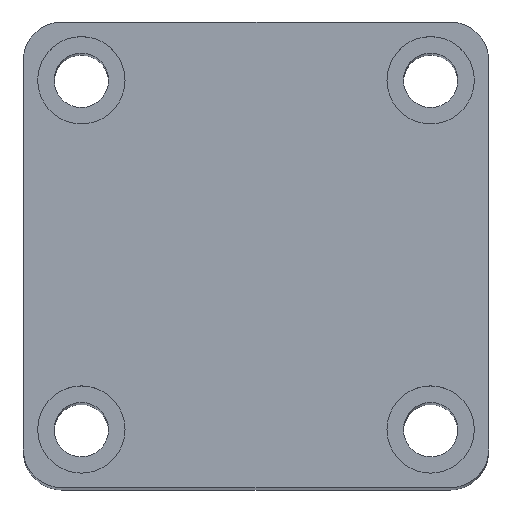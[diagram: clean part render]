
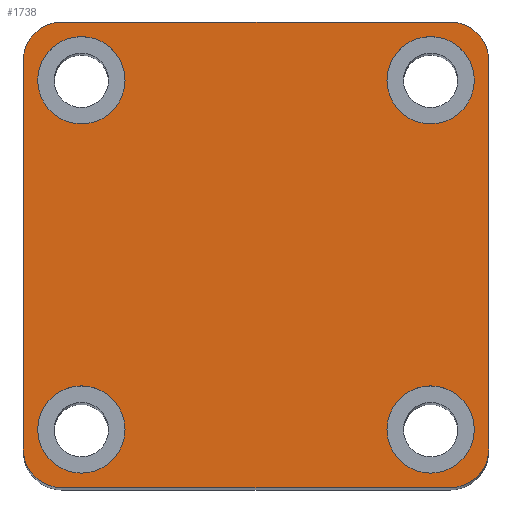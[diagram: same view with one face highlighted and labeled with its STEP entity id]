
A CAD part, top view. The second image highlights one B-rep face of the part: STEP entity #1738.
In plain terms, the highlighted planar face has unit normal (0, 0, 1).
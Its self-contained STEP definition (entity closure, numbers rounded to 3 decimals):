
#1 = VERTEX_POINT ( 'NONE', #1356 ) ;
#90 = VERTEX_POINT ( 'NONE', #1347 ) ;
#119 = FACE_BOUND ( 'NONE', #1888, .T. ) ;
#121 = FACE_BOUND ( 'NONE', #1912, .T. ) ;
#124 = FACE_BOUND ( 'NONE', #1858, .T. ) ;
#125 = FACE_OUTER_BOUND ( 'NONE', #1884, .T. ) ;
#131 = FACE_BOUND ( 'NONE', #1886, .T. ) ;
#328 = EDGE_CURVE ( 'NONE', #808, #787, #934, .T. ) ;
#334 = EDGE_CURVE ( 'NONE', #798, #727, #925, .T. ) ;
#350 = EDGE_CURVE ( 'NONE', #759, #650, #902, .T. ) ;
#354 = EDGE_CURVE ( 'NONE', #90, #805, #899, .T. ) ;
#361 = EDGE_CURVE ( 'NONE', #654, #757, #888, .T. ) ;
#374 = EDGE_CURVE ( 'NONE', #650, #759, #870, .T. ) ;
#376 = EDGE_CURVE ( 'NONE', #1, #689, #868, .T. ) ;
#378 = EDGE_CURVE ( 'NONE', #805, #90, #864, .T. ) ;
#383 = EDGE_CURVE ( 'NONE', #767, #815, #860, .T. ) ;
#384 = EDGE_CURVE ( 'NONE', #787, #798, #856, .T. ) ;
#387 = EDGE_CURVE ( 'NONE', #689, #1, #852, .T. ) ;
#391 = EDGE_CURVE ( 'NONE', #727, #770, #846, .T. ) ;
#393 = EDGE_CURVE ( 'NONE', #697, #767, #843, .T. ) ;
#394 = EDGE_CURVE ( 'NONE', #815, #808, #842, .T. ) ;
#436 = EDGE_CURVE ( 'NONE', #770, #697, #723, .T. ) ;
#439 = EDGE_CURVE ( 'NONE', #757, #654, #731, .T. ) ;
#472 = ORIENTED_EDGE ( 'NONE', *, *, #393, .T. ) ;
#477 = ORIENTED_EDGE ( 'NONE', *, *, #383, .T. ) ;
#481 = ORIENTED_EDGE ( 'NONE', *, *, #350, .F. ) ;
#486 = ORIENTED_EDGE ( 'NONE', *, *, #361, .F. ) ;
#492 = ORIENTED_EDGE ( 'NONE', *, *, #374, .F. ) ;
#494 = ORIENTED_EDGE ( 'NONE', *, *, #394, .T. ) ;
#498 = ORIENTED_EDGE ( 'NONE', *, *, #439, .F. ) ;
#501 = ORIENTED_EDGE ( 'NONE', *, *, #378, .F. ) ;
#502 = ORIENTED_EDGE ( 'NONE', *, *, #354, .F. ) ;
#503 = ORIENTED_EDGE ( 'NONE', *, *, #387, .F. ) ;
#504 = ORIENTED_EDGE ( 'NONE', *, *, #376, .F. ) ;
#505 = ORIENTED_EDGE ( 'NONE', *, *, #328, .T. ) ;
#506 = ORIENTED_EDGE ( 'NONE', *, *, #384, .T. ) ;
#507 = ORIENTED_EDGE ( 'NONE', *, *, #334, .T. ) ;
#526 = ORIENTED_EDGE ( 'NONE', *, *, #391, .T. ) ;
#532 = ORIENTED_EDGE ( 'NONE', *, *, #436, .T. ) ;
#650 = VERTEX_POINT ( 'NONE', #2355 ) ;
#654 = VERTEX_POINT ( 'NONE', #2324 ) ;
#689 = VERTEX_POINT ( 'NONE', #2334 ) ;
#697 = VERTEX_POINT ( 'NONE', #2305 ) ;
#719 = VECTOR ( 'NONE', #2540, 1000. ) ;
#723 = LINE ( 'NONE', #2523, #719 ) ;
#727 = VERTEX_POINT ( 'NONE', #2284 ) ;
#731 = CIRCLE ( 'NONE', #1424, 4.5 ) ;
#757 = VERTEX_POINT ( 'NONE', #2250 ) ;
#759 = VERTEX_POINT ( 'NONE', #2240 ) ;
#767 = VERTEX_POINT ( 'NONE', #2182 ) ;
#770 = VERTEX_POINT ( 'NONE', #2217 ) ;
#787 = VERTEX_POINT ( 'NONE', #2189 ) ;
#798 = VERTEX_POINT ( 'NONE', #2168 ) ;
#805 = VERTEX_POINT ( 'NONE', #2152 ) ;
#808 = VERTEX_POINT ( 'NONE', #2144 ) ;
#815 = VERTEX_POINT ( 'NONE', #2129 ) ;
#842 = CIRCLE ( 'NONE', #1566, 4. ) ;
#843 = CIRCLE ( 'NONE', #1575, 4. ) ;
#846 = CIRCLE ( 'NONE', #1558, 4. ) ;
#852 = CIRCLE ( 'NONE', #1555, 4.5 ) ;
#855 = VECTOR ( 'NONE', #1185, 1000. ) ;
#856 = CIRCLE ( 'NONE', #1538, 4. ) ;
#860 = LINE ( 'NONE', #1199, #855 ) ;
#864 = CIRCLE ( 'NONE', #1534, 4.5 ) ;
#868 = CIRCLE ( 'NONE', #1608, 4.5 ) ;
#870 = CIRCLE ( 'NONE', #1605, 4.5 ) ;
#888 = CIRCLE ( 'NONE', #1622, 4.5 ) ;
#899 = CIRCLE ( 'NONE', #1625, 4.5 ) ;
#902 = CIRCLE ( 'NONE', #1628, 4.5 ) ;
#925 = LINE ( 'NONE', #1374, #932 ) ;
#931 = VECTOR ( 'NONE', #1107, 1000. ) ;
#932 = VECTOR ( 'NONE', #1373, 1000. ) ;
#934 = LINE ( 'NONE', #1112, #931 ) ;
#1107 = DIRECTION ( 'NONE',  ( -1., 0., 0. ) ) ;
#1112 = CARTESIAN_POINT ( 'NONE',  ( -24., 24., 135. ) ) ;
#1145 = DIRECTION ( 'NONE',  ( 1., 0., 0. ) ) ;
#1146 = DIRECTION ( 'NONE',  ( 0., 0., 1. ) ) ;
#1147 = CARTESIAN_POINT ( 'NONE',  ( 20., 20., 135. ) ) ;
#1148 = DIRECTION ( 'NONE',  ( 1., 0., 0. ) ) ;
#1149 = DIRECTION ( 'NONE',  ( 0., 0., 1. ) ) ;
#1150 = CARTESIAN_POINT ( 'NONE',  ( 20., -20., 135. ) ) ;
#1156 = DIRECTION ( 'NONE',  ( 1., 0., 0. ) ) ;
#1157 = DIRECTION ( 'NONE',  ( 0., 0., 1. ) ) ;
#1158 = CARTESIAN_POINT ( 'NONE',  ( -20., -20., 135. ) ) ;
#1167 = DIRECTION ( 'NONE',  ( 1., 0., 0. ) ) ;
#1169 = DIRECTION ( 'NONE',  ( 0., 0., 1. ) ) ;
#1170 = CARTESIAN_POINT ( 'NONE',  ( 18., -18., 135. ) ) ;
#1179 = DIRECTION ( 'NONE',  ( 1., 0., 0. ) ) ;
#1180 = DIRECTION ( 'NONE',  ( 0., 0., 1. ) ) ;
#1181 = CARTESIAN_POINT ( 'NONE',  ( -20., 20., 135. ) ) ;
#1185 = DIRECTION ( 'NONE',  ( 0., 1., 0. ) ) ;
#1196 = DIRECTION ( 'NONE',  ( 1., 0., 0. ) ) ;
#1197 = DIRECTION ( 'NONE',  ( 0., 0., 1. ) ) ;
#1198 = CARTESIAN_POINT ( 'NONE',  ( -18., -18., 135. ) ) ;
#1199 = CARTESIAN_POINT ( 'NONE',  ( 24., 24., 135. ) ) ;
#1206 = DIRECTION ( 'NONE',  ( 1., 0., 0. ) ) ;
#1207 = DIRECTION ( 'NONE',  ( 0., 0., 1. ) ) ;
#1208 = CARTESIAN_POINT ( 'NONE',  ( 18., -18., 135. ) ) ;
#1210 = DIRECTION ( 'NONE',  ( 1., 0., 0. ) ) ;
#1211 = DIRECTION ( 'NONE',  ( 0., 0., 1. ) ) ;
#1212 = CARTESIAN_POINT ( 'NONE',  ( 18., 18., 135. ) ) ;
#1252 = DIRECTION ( 'NONE',  ( 1., 0., 0. ) ) ;
#1253 = DIRECTION ( 'NONE',  ( 0., 0., 1. ) ) ;
#1255 = CARTESIAN_POINT ( 'NONE',  ( -18., 18., 135. ) ) ;
#1275 = DIRECTION ( 'NONE',  ( 1., 0., 0. ) ) ;
#1276 = DIRECTION ( 'NONE',  ( 0., 0., 1. ) ) ;
#1277 = CARTESIAN_POINT ( 'NONE',  ( -18., -18., 135. ) ) ;
#1294 = DIRECTION ( 'NONE',  ( 1., 0., 0. ) ) ;
#1295 = DIRECTION ( 'NONE',  ( 0., 0., 1. ) ) ;
#1296 = CARTESIAN_POINT ( 'NONE',  ( 18., 18., 135. ) ) ;
#1347 = CARTESIAN_POINT ( 'NONE',  ( -22.5, -18., 135. ) ) ;
#1356 = CARTESIAN_POINT ( 'NONE',  ( 13.5, -18., 135. ) ) ;
#1373 = DIRECTION ( 'NONE',  ( 0., -1., 0. ) ) ;
#1374 = CARTESIAN_POINT ( 'NONE',  ( -24., 24., 135. ) ) ;
#1424 = AXIS2_PLACEMENT_3D ( 'NONE', #2454, #2460, #2447 ) ;
#1509 = AXIS2_PLACEMENT_3D ( 'NONE', #2209, #2219, #2206 ) ;
#1534 = AXIS2_PLACEMENT_3D ( 'NONE', #1198, #1197, #1196 ) ;
#1538 = AXIS2_PLACEMENT_3D ( 'NONE', #1181, #1180, #1179 ) ;
#1555 = AXIS2_PLACEMENT_3D ( 'NONE', #1170, #1169, #1167 ) ;
#1558 = AXIS2_PLACEMENT_3D ( 'NONE', #1158, #1157, #1156 ) ;
#1566 = AXIS2_PLACEMENT_3D ( 'NONE', #1147, #1146, #1145 ) ;
#1575 = AXIS2_PLACEMENT_3D ( 'NONE', #1150, #1149, #1148 ) ;
#1605 = AXIS2_PLACEMENT_3D ( 'NONE', #1212, #1211, #1210 ) ;
#1608 = AXIS2_PLACEMENT_3D ( 'NONE', #1208, #1207, #1206 ) ;
#1622 = AXIS2_PLACEMENT_3D ( 'NONE', #1255, #1253, #1252 ) ;
#1625 = AXIS2_PLACEMENT_3D ( 'NONE', #1277, #1276, #1275 ) ;
#1628 = AXIS2_PLACEMENT_3D ( 'NONE', #1296, #1295, #1294 ) ;
#1738 = ADVANCED_FACE ( 'NONE', ( #124, #119, #121, #131, #125 ), #2211, .T. ) ;
#1858 = EDGE_LOOP ( 'NONE', ( #498, #486 ) ) ;
#1884 = EDGE_LOOP ( 'NONE', ( #505, #506, #507, #526, #532, #472, #477, #494 ) ) ;
#1886 = EDGE_LOOP ( 'NONE', ( #503, #504 ) ) ;
#1888 = EDGE_LOOP ( 'NONE', ( #492, #481 ) ) ;
#1912 = EDGE_LOOP ( 'NONE', ( #501, #502 ) ) ;
#2129 = CARTESIAN_POINT ( 'NONE',  ( 24., 20., 135. ) ) ;
#2144 = CARTESIAN_POINT ( 'NONE',  ( 20., 24., 135. ) ) ;
#2152 = CARTESIAN_POINT ( 'NONE',  ( -13.5, -18., 135. ) ) ;
#2168 = CARTESIAN_POINT ( 'NONE',  ( -24., 20., 135. ) ) ;
#2182 = CARTESIAN_POINT ( 'NONE',  ( 24., -20., 135. ) ) ;
#2189 = CARTESIAN_POINT ( 'NONE',  ( -20., 24., 135. ) ) ;
#2206 = DIRECTION ( 'NONE',  ( 1., 0., 0. ) ) ;
#2209 = CARTESIAN_POINT ( 'NONE',  ( 0., 0., 135. ) ) ;
#2211 = PLANE ( 'NONE',  #1509 ) ;
#2217 = CARTESIAN_POINT ( 'NONE',  ( -20., -24., 135. ) ) ;
#2219 = DIRECTION ( 'NONE',  ( 0., 0., 1. ) ) ;
#2240 = CARTESIAN_POINT ( 'NONE',  ( 13.5, 18., 135. ) ) ;
#2250 = CARTESIAN_POINT ( 'NONE',  ( -13.5, 18., 135. ) ) ;
#2284 = CARTESIAN_POINT ( 'NONE',  ( -24., -20., 135. ) ) ;
#2305 = CARTESIAN_POINT ( 'NONE',  ( 20., -24., 135. ) ) ;
#2324 = CARTESIAN_POINT ( 'NONE',  ( -22.5, 18., 135. ) ) ;
#2334 = CARTESIAN_POINT ( 'NONE',  ( 22.5, -18., 135. ) ) ;
#2355 = CARTESIAN_POINT ( 'NONE',  ( 22.5, 18., 135. ) ) ;
#2447 = DIRECTION ( 'NONE',  ( 1., 0., 0. ) ) ;
#2454 = CARTESIAN_POINT ( 'NONE',  ( -18., 18., 135. ) ) ;
#2460 = DIRECTION ( 'NONE',  ( 0., 0., 1. ) ) ;
#2523 = CARTESIAN_POINT ( 'NONE',  ( -24., -24., 135. ) ) ;
#2540 = DIRECTION ( 'NONE',  ( 1., 0., 0. ) ) ;
